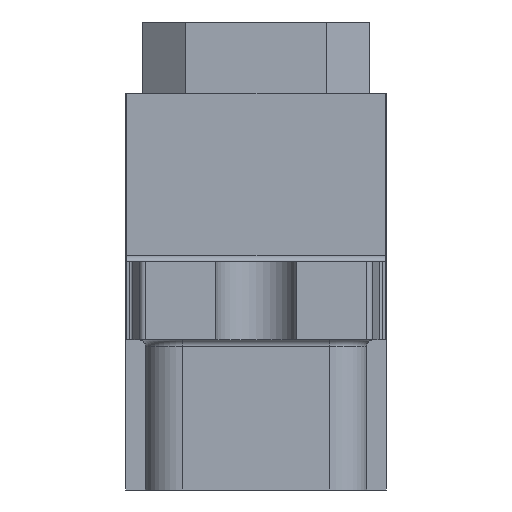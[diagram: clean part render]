
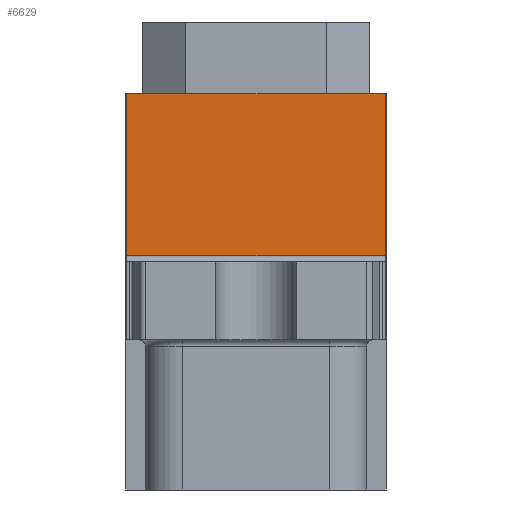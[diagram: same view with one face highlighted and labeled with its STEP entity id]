
A CAD part, left-side view. The second image highlights one B-rep face of the part: STEP entity #6629.
In plain terms, the highlighted planar face has unit normal (-1, 0, 0).
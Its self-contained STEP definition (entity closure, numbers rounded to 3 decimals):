
#38=DIRECTION('',(0.,-1.,0.));
#39=VECTOR('',#38,21.);
#40=CARTESIAN_POINT('',(-50.4,10.5,-5.85));
#41=LINE('',#40,#39);
#1882=DIRECTION('',(0.,1.,0.));
#1883=VECTOR('',#1882,21.);
#1884=CARTESIAN_POINT('',(-50.4,-10.5,-19.));
#1885=LINE('',#1884,#1883);
#1886=DIRECTION('',(0.,0.,-1.));
#1887=VECTOR('',#1886,13.15);
#1888=CARTESIAN_POINT('',(-50.4,10.5,-5.85));
#1889=LINE('',#1888,#1887);
#1906=DIRECTION('',(0.,0.,-1.));
#1907=VECTOR('',#1906,13.15);
#1908=CARTESIAN_POINT('',(-50.4,-10.5,-5.85));
#1909=LINE('',#1908,#1907);
#3524=CARTESIAN_POINT('',(-50.4,10.5,-5.85));
#3525=VERTEX_POINT('',#3524);
#3526=CARTESIAN_POINT('',(-50.4,-10.5,-5.85));
#3527=VERTEX_POINT('',#3526);
#3978=CARTESIAN_POINT('',(-50.4,-10.5,-19.));
#3979=CARTESIAN_POINT('',(-50.4,10.5,-19.));
#3980=VERTEX_POINT('',#3978);
#3981=VERTEX_POINT('',#3979);
#6617=CARTESIAN_POINT('',(-50.4,10.5,-5.85));
#6618=DIRECTION('',(-1.,0.,0.));
#6619=DIRECTION('',(0.,-1.,0.));
#6620=AXIS2_PLACEMENT_3D('',#6617,#6618,#6619);
#6621=PLANE('',#6620);
#6622=ORIENTED_EDGE('',*,*,#6608,.T.);
#6623=ORIENTED_EDGE('',*,*,#5750,.F.);
#6624=ORIENTED_EDGE('',*,*,#4609,.T.);
#6626=ORIENTED_EDGE('',*,*,#6625,.T.);
#6627=EDGE_LOOP('',(#6622,#6623,#6624,#6626));
#6628=FACE_OUTER_BOUND('',#6627,.F.);
#4609=EDGE_CURVE('',#3525,#3527,#41,.T.);
#5750=EDGE_CURVE('',#3525,#3981,#1889,.T.);
#6608=EDGE_CURVE('',#3980,#3981,#1885,.T.);
#6625=EDGE_CURVE('',#3527,#3980,#1909,.T.);
#6629=ADVANCED_FACE('',(#6628),#6621,.T.);
